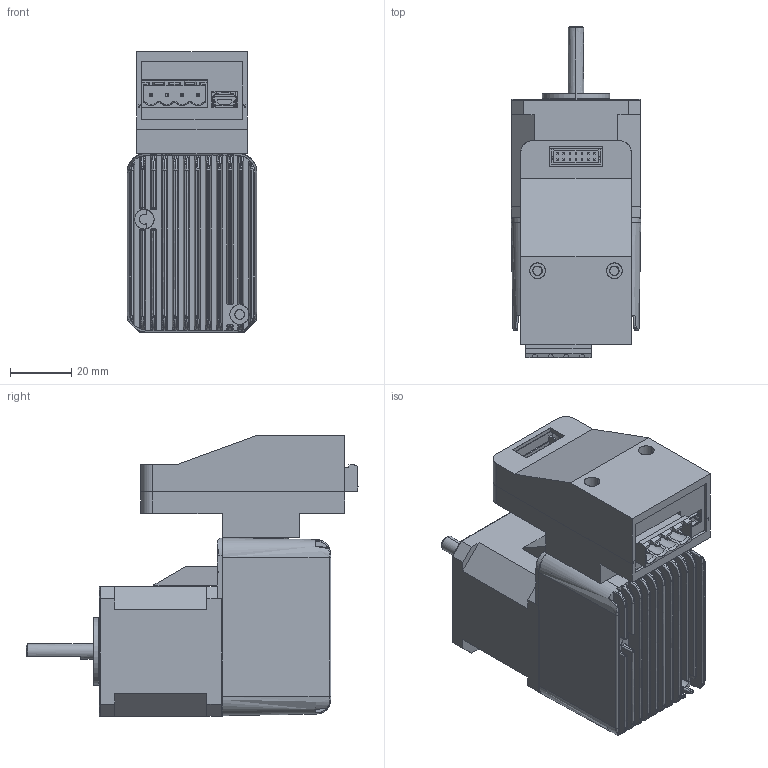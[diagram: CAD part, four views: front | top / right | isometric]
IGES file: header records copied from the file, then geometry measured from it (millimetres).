
Start section: SolidWorks IGES file using analytic representation for surfaces
Global section: file name: C:\Users\IEUser\Documents\Christine folder\Arcus\Project #23 DMX Drawings\DMX-UMD-17\DMX-UMD-17-2.IGS; native system: SolidWorks 2008; preprocessor: SolidWorks 2008; author: IEUser; date: 140307.154511; units: millimetre
Bounding box: 42.3 x 108.07 x 91.45 mm (x, y, z)
Surface area: 64533 mm2 (no closed solid volume)
Topology: 0 solids, 0 shells, 1734 faces, 14930 edges, 14876 vertices
Faces by surface type: bspline 1178, revolution 556
